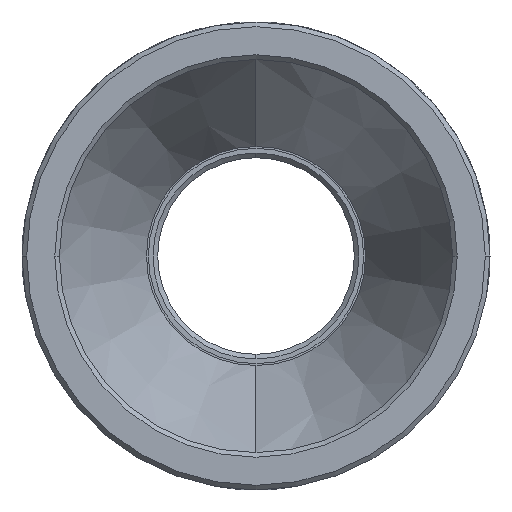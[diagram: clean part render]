
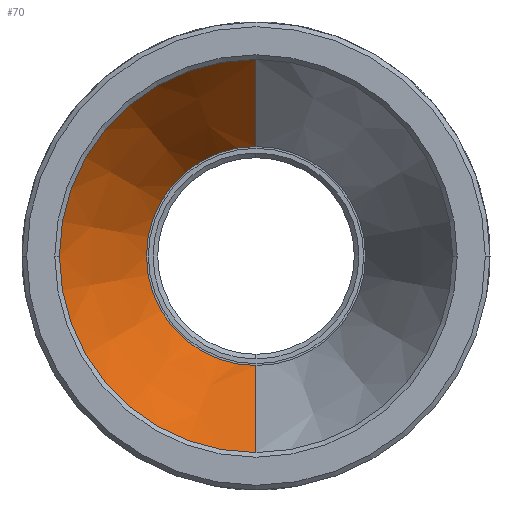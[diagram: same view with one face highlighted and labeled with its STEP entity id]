
A CAD part, front view. The second image highlights one B-rep face of the part: STEP entity #70.
In plain terms, the highlighted conical face has half-angle 26.689 degrees and reference radius 11.7 mm.
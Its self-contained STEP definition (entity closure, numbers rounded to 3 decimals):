
#67 = CARTESIAN_POINT ( 'NONE',  ( -10.782, -2.812, 50. ) ) ;
#70 = ADVANCED_FACE ( 'NONE', ( #1755 ), #2398, .F. ) ;
#97 = ORIENTED_EDGE ( 'NONE', *, *, #652, .T. ) ;
#228 = EDGE_CURVE ( 'NONE', #2337, #1331, #1254, .T. ) ;
#254 = ORIENTED_EDGE ( 'NONE', *, *, #1465, .T. ) ;
#287 = CARTESIAN_POINT ( 'NONE',  ( -10.782, -2.812, 38.3 ) ) ;
#350 = LINE ( 'NONE', #287, #2002 ) ;
#615 = CARTESIAN_POINT ( 'NONE',  ( -10.782, -2.812, 50. ) ) ;
#624 = DIRECTION ( 'NONE',  ( 0., -1., 0. ) ) ;
#652 = EDGE_CURVE ( 'NONE', #2337, #2627, #2150, .T. ) ;
#719 = AXIS2_PLACEMENT_3D ( 'NONE', #67, #1305, #2168 ) ;
#755 = ORIENTED_EDGE ( 'NONE', *, *, #228, .F. ) ;
#764 = DIRECTION ( 'NONE',  ( 0., -0.893, -0.449 ) ) ;
#897 = CARTESIAN_POINT ( 'NONE',  ( -10.782, -21.312, 50. ) ) ;
#1051 = EDGE_LOOP ( 'NONE', ( #755, #97, #254, #1629 ) ) ;
#1254 = CIRCLE ( 'NONE', #1598, 11.7 ) ;
#1305 = DIRECTION ( 'NONE',  ( 0., -1., 0. ) ) ;
#1314 = VERTEX_POINT ( 'NONE', #1442 ) ;
#1331 = VERTEX_POINT ( 'NONE', #2718 ) ;
#1438 = DIRECTION ( 'NONE',  ( 0., 0., -1. ) ) ;
#1442 = CARTESIAN_POINT ( 'NONE',  ( -10.782, -21.312, 29. ) ) ;
#1465 = EDGE_CURVE ( 'NONE', #2627, #1314, #2059, .T. ) ;
#1598 = AXIS2_PLACEMENT_3D ( 'NONE', #615, #624, #1438 ) ;
#1629 = ORIENTED_EDGE ( 'NONE', *, *, #2743, .F. ) ;
#1630 = CARTESIAN_POINT ( 'NONE',  ( -10.782, -2.812, 61.7 ) ) ;
#1631 = CARTESIAN_POINT ( 'NONE',  ( -10.782, -2.812, 61.7 ) ) ;
#1736 = DIRECTION ( 'NONE',  ( 0., 0., -1. ) ) ;
#1755 = FACE_OUTER_BOUND ( 'NONE', #1051, .T. ) ;
#2002 = VECTOR ( 'NONE', #764, 1000. ) ;
#2059 = CIRCLE ( 'NONE', #2521, 21. ) ;
#2150 = LINE ( 'NONE', #1630, #2333 ) ;
#2168 = DIRECTION ( 'NONE',  ( 0., 0., -1. ) ) ;
#2205 = DIRECTION ( 'NONE',  ( 0., -1., 0. ) ) ;
#2271 = DIRECTION ( 'NONE',  ( 0., -0.893, 0.449 ) ) ;
#2333 = VECTOR ( 'NONE', #2271, 1000. ) ;
#2337 = VERTEX_POINT ( 'NONE', #1631 ) ;
#2398 = CONICAL_SURFACE ( 'NONE', #719, 11.7, 0.466 ) ;
#2521 = AXIS2_PLACEMENT_3D ( 'NONE', #897, #2205, #1736 ) ;
#2627 = VERTEX_POINT ( 'NONE', #2630 ) ;
#2630 = CARTESIAN_POINT ( 'NONE',  ( -10.782, -21.312, 71. ) ) ;
#2718 = CARTESIAN_POINT ( 'NONE',  ( -10.782, -2.812, 38.3 ) ) ;
#2743 = EDGE_CURVE ( 'NONE', #1331, #1314, #350, .T. ) ;
